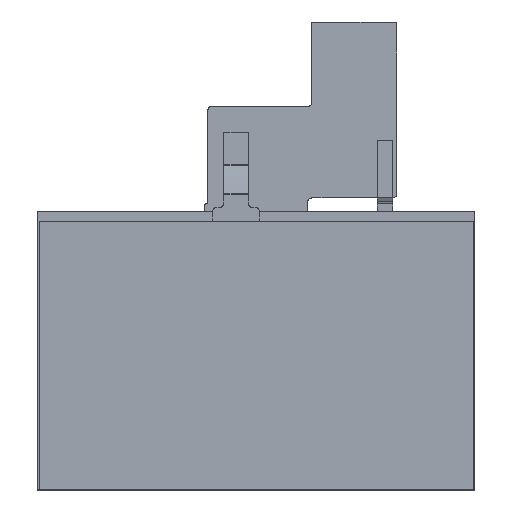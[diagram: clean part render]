
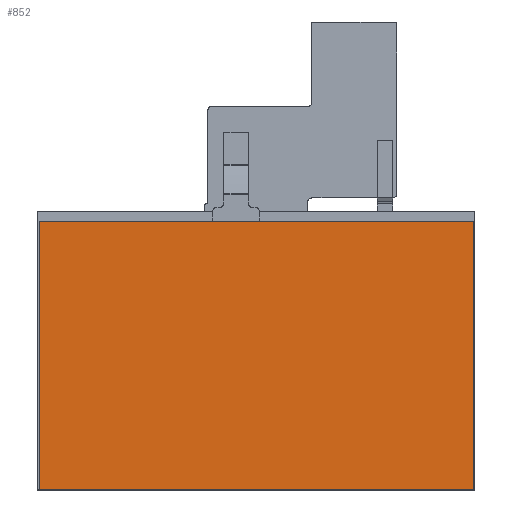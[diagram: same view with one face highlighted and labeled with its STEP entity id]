
A CAD part, top view. The second image highlights one B-rep face of the part: STEP entity #852.
In plain terms, the highlighted planar face has unit normal (0, 0, 1).
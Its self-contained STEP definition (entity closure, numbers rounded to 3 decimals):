
#9 = EDGE_CURVE ( 'NONE', #863, #3331, #3095, .T. ) ;
#240 = ORIENTED_EDGE ( 'NONE', *, *, #1668, .F. ) ;
#251 = VERTEX_POINT ( 'NONE', #2044 ) ;
#363 = DIRECTION ( 'NONE',  ( 0., 0., -1. ) ) ;
#525 = LINE ( 'NONE', #1528, #3576 ) ;
#630 = LINE ( 'NONE', #1536, #1105 ) ;
#852 = ADVANCED_FACE ( 'NONE', ( #3198 ), #1676, .F. ) ;
#863 = VERTEX_POINT ( 'NONE', #3877 ) ;
#921 = DIRECTION ( 'NONE',  ( 0., 1., 0. ) ) ;
#1105 = VECTOR ( 'NONE', #2771, 1000. ) ;
#1395 = ORIENTED_EDGE ( 'NONE', *, *, #3692, .F. ) ;
#1420 = AXIS2_PLACEMENT_3D ( 'NONE', #1659, #363, #1640 ) ;
#1528 = CARTESIAN_POINT ( 'NONE',  ( 0., 64.5, 3. ) ) ;
#1536 = CARTESIAN_POINT ( 'NONE',  ( 104.87, 0., 3. ) ) ;
#1640 = DIRECTION ( 'NONE',  ( -1., 0., 0. ) ) ;
#1659 = CARTESIAN_POINT ( 'NONE',  ( 0., 0., 3. ) ) ;
#1668 = EDGE_CURVE ( 'NONE', #251, #863, #2999, .T. ) ;
#1676 = PLANE ( 'NONE',  #1420 ) ;
#2044 = CARTESIAN_POINT ( 'NONE',  ( 104.87, -0.3, 3. ) ) ;
#2626 = DIRECTION ( 'NONE',  ( -1., 0., 0. ) ) ;
#2767 = ORIENTED_EDGE ( 'NONE', *, *, #3263, .F. ) ;
#2771 = DIRECTION ( 'NONE',  ( 0., -1., 0. ) ) ;
#2782 = DIRECTION ( 'NONE',  ( 1., 0., 0. ) ) ;
#2999 = LINE ( 'NONE', #3287, #3735 ) ;
#3095 = LINE ( 'NONE', #3767, #3585 ) ;
#3124 = CARTESIAN_POINT ( 'NONE',  ( 0.17, 64.5, 3. ) ) ;
#3198 = FACE_OUTER_BOUND ( 'NONE', #4094, .T. ) ;
#3263 = EDGE_CURVE ( 'NONE', #3920, #251, #630, .T. ) ;
#3287 = CARTESIAN_POINT ( 'NONE',  ( 0., -0.3, 3. ) ) ;
#3331 = VERTEX_POINT ( 'NONE', #3124 ) ;
#3364 = ORIENTED_EDGE ( 'NONE', *, *, #9, .F. ) ;
#3576 = VECTOR ( 'NONE', #2782, 1000. ) ;
#3585 = VECTOR ( 'NONE', #921, 1000. ) ;
#3692 = EDGE_CURVE ( 'NONE', #3331, #3920, #525, .T. ) ;
#3735 = VECTOR ( 'NONE', #2626, 1000. ) ;
#3767 = CARTESIAN_POINT ( 'NONE',  ( 0.17, 0., 3. ) ) ;
#3877 = CARTESIAN_POINT ( 'NONE',  ( 0.17, -0.3, 3. ) ) ;
#3920 = VERTEX_POINT ( 'NONE', #3937 ) ;
#3937 = CARTESIAN_POINT ( 'NONE',  ( 104.87, 64.5, 3. ) ) ;
#4094 = EDGE_LOOP ( 'NONE', ( #1395, #3364, #240, #2767 ) ) ;
